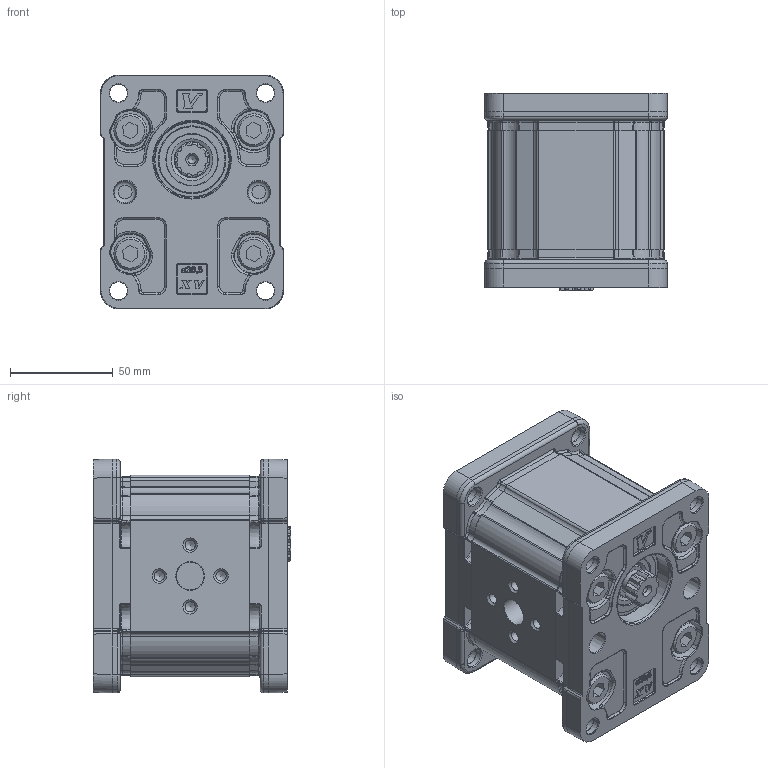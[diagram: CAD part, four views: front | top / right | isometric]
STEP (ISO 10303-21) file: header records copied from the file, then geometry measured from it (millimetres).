
FILE_DESCRIPTION(/* description */ ('Unknown'),/* implementation_level */ '2;1');
FILE_NAME(/* name */ 'X2I4702POOA',/* time_stamp */ '2026-06-03T18:53:13+02:00',/* author */ ('Unknown'),/* organization */ ('Unknown'),/* preprocessor_version */ 'ST-DEVELOPER v16.7',/* originating_system */ 'Solid Edge',/* authorisation */ 'Unknown');
FILE_SCHEMA (('AUTOMOTIVE_DESIGN {1 0 10303 214 3 1 1}'));
Products named in the file (5): X2I4702POOA; X2I02; 2P; X2OOH58; XI201-A
Assembly tree (4 placements, depth 2):
  X2I4702POOA
    X2I02
    2P
    X2OOH58
    XI201-A
Bounding box: 89 x 96.2 x 113.7 mm (x, y, z)
Volume: 700112.4 mm3; surface area: 121780.6 mm2
Topology: 5 solids, 6 shells, 2226 faces, 6524 edges, 3960 vertices
Faces by surface type: cylinder 684, plane 598, bspline 338, torus 328, cone 258, sphere 20
Full cylindrical faces by diameter (mm): 4 x1, 4.917 x4, 5 x4, 8.796 x8, 8.798 x8, 9.99 x4, 10 x8, 10.5 x16, 11.5 x4, 12.5 x2, 13.5 x2, 15.8 x4, 16 x4, 17.42 x2, 23 x1, 25 x2, 32.5 x2, 36.5 x2
Entity records: 94806 total; most frequent: CARTESIAN_POINT 24279, ORIENTED_EDGE 12052, DIRECTION 11094, EDGE_CURVE 6026, AXIS2_PLACEMENT_3D 4523, VERTEX_POINT 3810, FACE_BOUND 2668, EDGE_LOOP 2657
